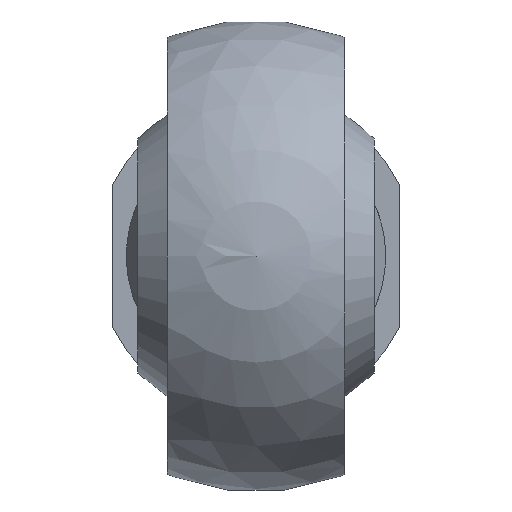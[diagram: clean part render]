
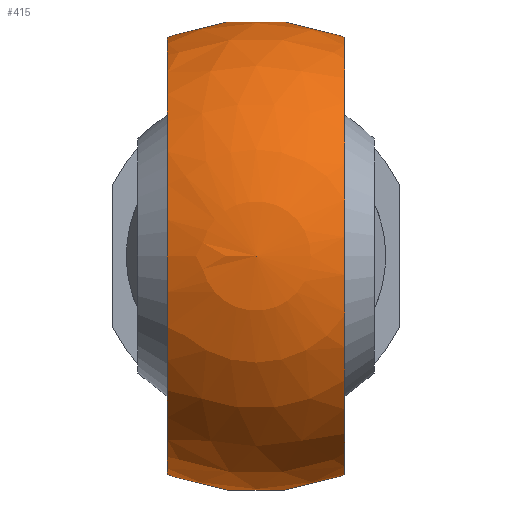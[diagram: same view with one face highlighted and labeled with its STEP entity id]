
A CAD part, left-side view. The second image highlights one B-rep face of the part: STEP entity #415.
In plain terms, the highlighted spherical face has radius 14 mm.
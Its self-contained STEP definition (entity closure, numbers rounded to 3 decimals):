
#23=SPHERICAL_SURFACE('',#454,14.);
#59=FACE_OUTER_BOUND('',#91,.T.);
#91=EDGE_LOOP('',(#295,#296,#297,#298));
#164=CIRCLE('',#443,12.978);
#166=CIRCLE('',#446,12.978);
#172=CIRCLE('',#455,12.037);
#173=CIRCLE('',#456,12.037);
#191=VERTEX_POINT('',#634);
#192=VERTEX_POINT('',#635);
#198=VERTEX_POINT('',#653);
#199=VERTEX_POINT('',#654);
#228=EDGE_CURVE('',#191,#192,#164,.F.);
#235=EDGE_CURVE('',#198,#199,#166,.F.);
#248=EDGE_CURVE('',#198,#192,#172,.T.);
#249=EDGE_CURVE('',#191,#199,#173,.T.);
#295=ORIENTED_EDGE('',*,*,#235,.F.);
#296=ORIENTED_EDGE('',*,*,#248,.T.);
#297=ORIENTED_EDGE('',*,*,#228,.F.);
#298=ORIENTED_EDGE('',*,*,#249,.T.);
#415=ADVANCED_FACE('',(#59),#23,.T.);
#443=AXIS2_PLACEMENT_3D('',#636,#504,#505);
#446=AXIS2_PLACEMENT_3D('',#655,#513,#514);
#454=AXIS2_PLACEMENT_3D('',#685,#534,#535);
#455=AXIS2_PLACEMENT_3D('',#686,#536,#537);
#456=AXIS2_PLACEMENT_3D('',#687,#538,#539);
#504=DIRECTION('center_axis',(0.,-1.,0.));
#505=DIRECTION('ref_axis',(0.,0.,-1.));
#513=DIRECTION('center_axis',(0.,1.,0.));
#514=DIRECTION('ref_axis',(0.,0.,1.));
#534=DIRECTION('center_axis',(-1.,0.,0.));
#535=DIRECTION('ref_axis',(0.,1.,0.));
#536=DIRECTION('center_axis',(-1.,0.,0.));
#537=DIRECTION('ref_axis',(0.,0.,1.));
#538=DIRECTION('center_axis',(-1.,0.,0.));
#539=DIRECTION('ref_axis',(0.,0.,1.));
#634=CARTESIAN_POINT('',(7.15,5.25,-10.831));
#635=CARTESIAN_POINT('',(7.15,5.25,10.831));
#636=CARTESIAN_POINT('Origin',(0.,5.25,0.));
#653=CARTESIAN_POINT('',(7.15,-5.25,10.831));
#654=CARTESIAN_POINT('',(7.15,-5.25,-10.831));
#655=CARTESIAN_POINT('Origin',(0.,-5.25,0.));
#685=CARTESIAN_POINT('Origin',(0.,0.,
0.));
#686=CARTESIAN_POINT('Origin',(7.15,0.,0.));
#687=CARTESIAN_POINT('Origin',(7.15,0.,0.));
